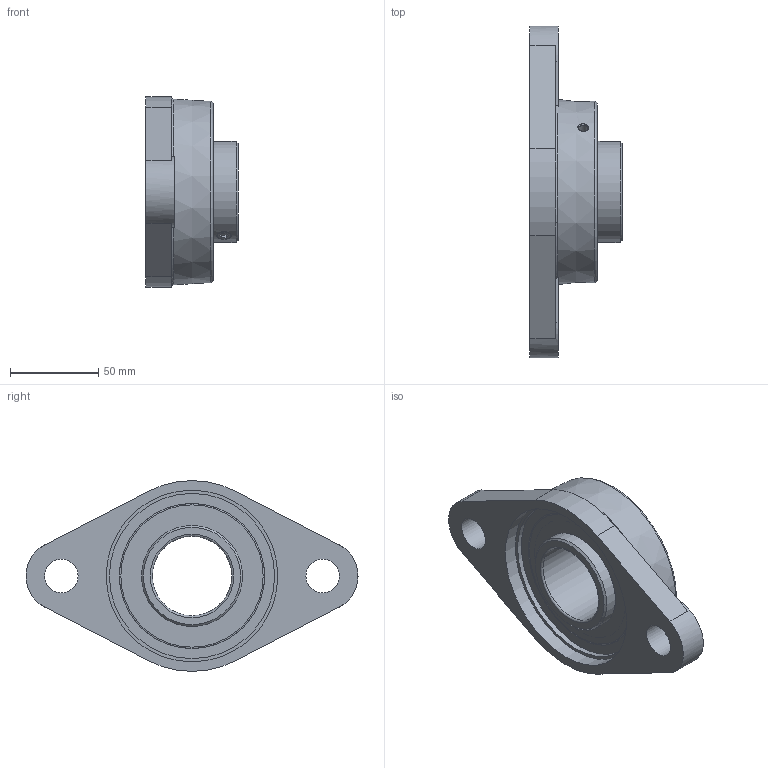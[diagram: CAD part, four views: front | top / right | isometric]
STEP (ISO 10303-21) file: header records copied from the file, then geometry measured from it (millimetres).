
FILE_DESCRIPTION (( 'STEP AP203' ), '1' );
FILE_NAME ('UCFL-209.STEP', '2019-03-08T12:12:47', ( '' ), ( '' ), 'SwSTEP 2.0', 'SolidWorks 2017', '' );
FILE_SCHEMA (( 'CONFIG_CONTROL_DESIGN' ));
Length unit declared in the file: millimetre
Products named in the file (1): UCFL-209
Bounding box: 52.2 x 188 x 108 mm (x, y, z)
Volume: 246025.1 mm3; surface area: 67086.3 mm2
Topology: 1 solids, 3 shells, 99 faces, 218 edges, 143 vertices
Faces by surface type: plane 43, cylinder 28, cone 12, torus 9, sphere 7
Full cylindrical faces by diameter (mm): 1.1 x4, 4.918 x1, 6 x1, 8 x2, 19 x2, 45 x1, 57.2 x4, 72.756 x2, 93.5 x1, 95 x1, 97.2 x1
Entity records: 3003 total; most frequent: CARTESIAN_POINT 972, DIRECTION 408, ORIENTED_EDGE 328, AXIS2_PLACEMENT_3D 172, EDGE_CURVE 164, EDGE_LOOP 162, FACE_OUTER_BOUND 126, VERTEX_POINT 124
